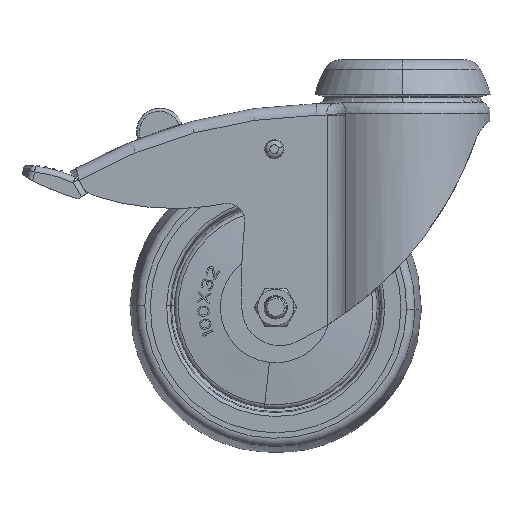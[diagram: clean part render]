
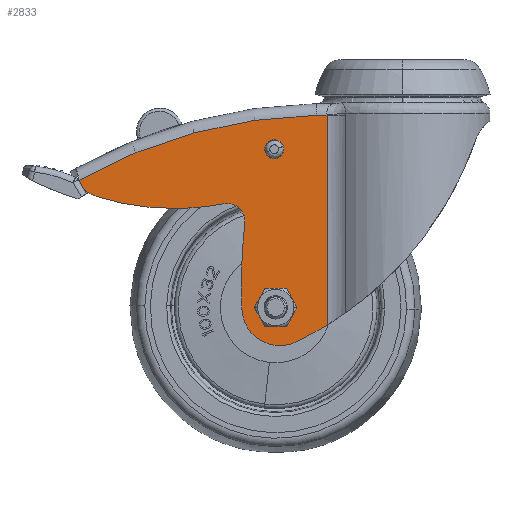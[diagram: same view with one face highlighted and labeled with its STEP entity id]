
A CAD part, left-side view. The second image highlights one B-rep face of the part: STEP entity #2833.
In plain terms, the highlighted planar face has unit normal (-1, 0, 0).
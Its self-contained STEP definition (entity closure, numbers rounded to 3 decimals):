
#304=DIRECTION('',(0.,1.,0.));
#305=VECTOR('',#304,3.699);
#306=CARTESIAN_POINT('',(-20.5,25.88,-10.6));
#307=LINE('',#306,#305);
#349=CARTESIAN_POINT('',(-20.5,89.216,20.581));
#350=DIRECTION('',(1.,0.,0.));
#351=DIRECTION('',(0.,-0.523,-0.852));
#352=AXIS2_PLACEMENT_3D('',#349,#350,#351);
#354=CARTESIAN_POINT('',(-20.5,42.1,-76.6));
#355=DIRECTION('',(1.,0.,0.));
#356=DIRECTION('',(0.,-0.436,-0.9));
#357=AXIS2_PLACEMENT_3D('',#354,#355,#356);
#359=CARTESIAN_POINT('',(-20.5,-142.748,-69.093));
#360=DIRECTION('',(1.,0.,0.));
#361=DIRECTION('',(0.,0.999,-0.041));
#362=AXIS2_PLACEMENT_3D('',#359,#360,#361);
#364=CARTESIAN_POINT('',(-20.5,-142.748,-69.093));
#365=DIRECTION('',(1.,0.,0.));
#366=DIRECTION('',(0.,1.,0.));
#367=AXIS2_PLACEMENT_3D('',#364,#365,#366);
#369=CARTESIAN_POINT('',(-20.5,60.2,-47.));
#370=DIRECTION('',(-1.,0.,0.));
#371=DIRECTION('',(0.,-0.994,-0.108));
#372=AXIS2_PLACEMENT_3D('',#369,#370,#371);
#374=CARTESIAN_POINT('',(-20.5,60.2,-47.));
#375=DIRECTION('',(-1.,0.,0.));
#376=DIRECTION('',(0.,-1.,0.));
#377=AXIS2_PLACEMENT_3D('',#374,#375,#376);
#379=CARTESIAN_POINT('',(-20.5,78.218,47.553));
#380=DIRECTION('',(1.,0.,0.));
#381=DIRECTION('',(0.,-0.187,-0.982));
#382=AXIS2_PLACEMENT_3D('',#379,#380,#381);
#384=CARTESIAN_POINT('',(-20.5,78.218,47.553));
#385=DIRECTION('',(1.,0.,0.));
#386=DIRECTION('',(0.,0.,-1.));
#387=AXIS2_PLACEMENT_3D('',#384,#385,#386);
#389=CARTESIAN_POINT('',(-20.5,102.42,-29.86));
#390=DIRECTION('',(1.,0.,0.));
#391=DIRECTION('',(0.,0.298,-0.954));
#392=AXIS2_PLACEMENT_3D('',#389,#390,#391);
#394=CARTESIAN_POINT('',(-20.5,26.064,-183.261));
#395=DIRECTION('',(1.,0.,0.));
#396=DIRECTION('',(0.,0.491,0.871));
#397=AXIS2_PLACEMENT_3D('',#394,#395,#396);
#399=CARTESIAN_POINT('',(-20.5,43.5,-76.5));
#400=DIRECTION('',(-1.,0.,0.));
#401=DIRECTION('',(0.,-1.,0.));
#402=AXIS2_PLACEMENT_3D('',#399,#400,#401);
#404=CARTESIAN_POINT('',(-20.5,43.5,-76.5));
#405=DIRECTION('',(-1.,0.,0.));
#406=DIRECTION('',(0.,1.,0.));
#407=AXIS2_PLACEMENT_3D('',#404,#405,#406);
#409=CARTESIAN_POINT('',(-20.5,44.,-22.25));
#410=DIRECTION('',(-1.,0.,0.));
#411=DIRECTION('',(0.,-1.,0.));
#412=AXIS2_PLACEMENT_3D('',#409,#410,#411);
#414=CARTESIAN_POINT('',(-20.5,44.,-22.25));
#415=DIRECTION('',(-1.,0.,0.));
#416=DIRECTION('',(0.,1.,0.));
#417=AXIS2_PLACEMENT_3D('',#414,#415,#416);
#1771=DIRECTION('',(0.,0.,1.));
#1772=VECTOR('',#1771,71.919);
#1773=CARTESIAN_POINT('',(-20.5,25.88,-82.519));
#1774=LINE('',#1773,#1772);
#1804=CARTESIAN_POINT('',(-20.5,36.429,-88.298));
#1805=VERTEX_POINT('',#1804);
#1806=CARTESIAN_POINT('',(-20.5,25.88,-82.519));
#1807=VERTEX_POINT('',#1806);
#1860=CARTESIAN_POINT('',(-20.5,39.4,-76.5));
#1861=CARTESIAN_POINT('',(-20.5,47.6,-76.5));
#1862=VERTEX_POINT('',#1860);
#1863=VERTEX_POINT('',#1861);
#1892=CARTESIAN_POINT('',(-20.5,55.089,-77.128));
#1893=VERTEX_POINT('',#1892);
#1894=CARTESIAN_POINT('',(-20.5,55.252,-69.093));
#1895=VERTEX_POINT('',#1894);
#1896=CARTESIAN_POINT('',(-20.5,54.09,-47.665));
#1897=VERTEX_POINT('',#1896);
#1898=CARTESIAN_POINT('',(-20.5,54.053,-47.));
#1899=CARTESIAN_POINT('',(-20.5,61.351,-40.962));
#1900=VERTEX_POINT('',#1898);
#1901=VERTEX_POINT('',#1899);
#1902=CARTESIAN_POINT('',(-20.5,78.218,-42.555));
#1903=CARTESIAN_POINT('',(-20.5,105.105,-38.45));
#1904=VERTEX_POINT('',#1902);
#1905=VERTEX_POINT('',#1903);
#1906=CARTESIAN_POINT('',(-20.5,110.911,-32.844));
#1907=VERTEX_POINT('',#1906);
#1908=CARTESIAN_POINT('',(-20.5,29.578,-10.6));
#1909=VERTEX_POINT('',#1908);
#1910=CARTESIAN_POINT('',(-20.5,25.88,
-10.6));
#1911=VERTEX_POINT('',#1910);
#1912=CARTESIAN_POINT('',(-20.5,40.75,-22.25));
#1913=CARTESIAN_POINT('',(-20.5,47.25,-22.25));
#1914=VERTEX_POINT('',#1912);
#1915=VERTEX_POINT('',#1913);
#2791=CARTESIAN_POINT('',(-20.5,176.,-6.6));
#2792=DIRECTION('',(-1.,0.,0.));
#2793=DIRECTION('',(0.,-1.,0.));
#2794=AXIS2_PLACEMENT_3D('',#2791,#2792,#2793);
#2795=PLANE('',#2794);
#2797=ORIENTED_EDGE('',*,*,#2796,.T.);
#2799=ORIENTED_EDGE('',*,*,#2798,.T.);
#2801=ORIENTED_EDGE('',*,*,#2800,.T.);
#2803=ORIENTED_EDGE('',*,*,#2802,.T.);
#2805=ORIENTED_EDGE('',*,*,#2804,.T.);
#2807=ORIENTED_EDGE('',*,*,#2806,.T.);
#2809=ORIENTED_EDGE('',*,*,#2808,.T.);
#2811=ORIENTED_EDGE('',*,*,#2810,.T.);
#2813=ORIENTED_EDGE('',*,*,#2812,.T.);
#2815=ORIENTED_EDGE('',*,*,#2814,.T.);
#2816=ORIENTED_EDGE('',*,*,#2781,.F.);
#2818=ORIENTED_EDGE('',*,*,#2817,.F.);
#2819=EDGE_LOOP('',(#2797,#2799,#2801,#2803,#2805,#2807,#2809,#2811,#2813,#2815,
#2816,#2818));
#2820=FACE_OUTER_BOUND('',#2819,.F.);
#2822=ORIENTED_EDGE('',*,*,#2821,.T.);
#2824=ORIENTED_EDGE('',*,*,#2823,.T.);
#2825=EDGE_LOOP('',(#2822,#2824));
#2826=FACE_BOUND('',#2825,.F.);
#2828=ORIENTED_EDGE('',*,*,#2827,.T.);
#2830=ORIENTED_EDGE('',*,*,#2829,.T.);
#2831=EDGE_LOOP('',(#2828,#2830));
#2832=FACE_BOUND('',#2831,.F.);
#353=CIRCLE('',#352,121.);
#358=CIRCLE('',#357,13.);
#363=CIRCLE('',#362,198.);
#368=CIRCLE('',#367,198.);
#373=CIRCLE('',#372,6.147);
#378=CIRCLE('',#377,6.147);
#383=CIRCLE('',#382,90.108);
#388=CIRCLE('',#387,90.108);
#393=CIRCLE('',#392,9.);
#398=CIRCLE('',#397,172.697);
#403=CIRCLE('',#402,4.1);
#408=CIRCLE('',#407,4.1);
#413=CIRCLE('',#412,3.25);
#418=CIRCLE('',#417,3.25);
#2781=EDGE_CURVE('',#1911,#1909,#307,.T.);
#2796=EDGE_CURVE('',#1807,#1805,#353,.T.);
#2798=EDGE_CURVE('',#1805,#1893,#358,.T.);
#2800=EDGE_CURVE('',#1893,#1895,#363,.T.);
#2802=EDGE_CURVE('',#1895,#1897,#368,.T.);
#2804=EDGE_CURVE('',#1897,#1900,#373,.T.);
#2806=EDGE_CURVE('',#1900,#1901,#378,.T.);
#2808=EDGE_CURVE('',#1901,#1904,#383,.T.);
#2810=EDGE_CURVE('',#1904,#1905,#388,.T.);
#2812=EDGE_CURVE('',#1905,#1907,#393,.T.);
#2814=EDGE_CURVE('',#1907,#1909,#398,.T.);
#2817=EDGE_CURVE('',#1807,#1911,#1774,.T.);
#2821=EDGE_CURVE('',#1862,#1863,#403,.T.);
#2823=EDGE_CURVE('',#1863,#1862,#408,.T.);
#2827=EDGE_CURVE('',#1914,#1915,#413,.T.);
#2829=EDGE_CURVE('',#1915,#1914,#418,.T.);
#2833=ADVANCED_FACE('',(#2820,#2826,#2832),#2795,.T.);
